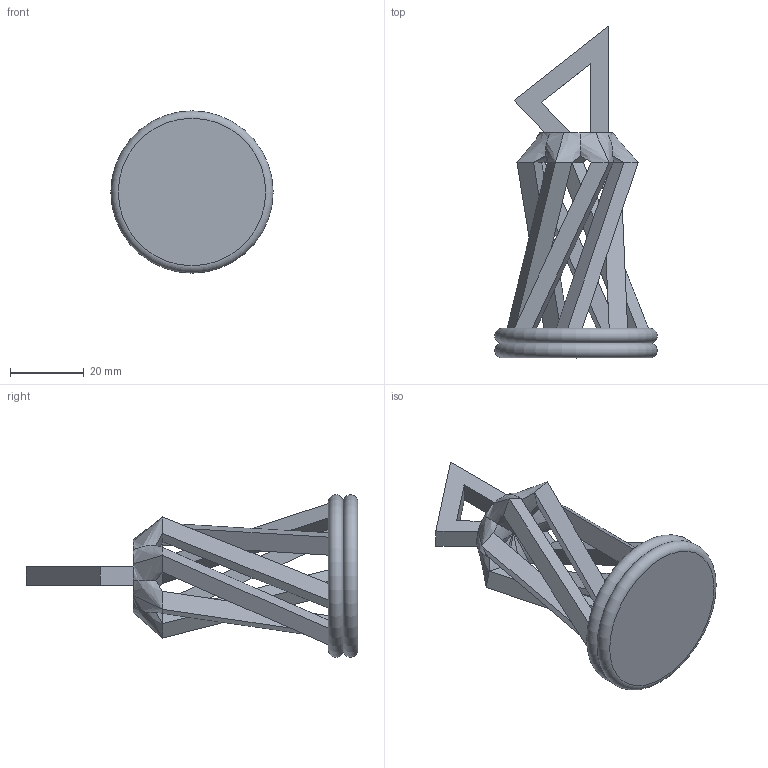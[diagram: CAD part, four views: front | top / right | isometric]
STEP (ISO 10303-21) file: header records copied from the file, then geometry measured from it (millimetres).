
FILE_DESCRIPTION(/* description */ (''),/* implementation_level */ '2;1');
FILE_NAME(/* name */ 'E:\Chess\Knight1.stp',/* time_stamp */ '2021-01-30T10:47:04-05:00',/* author */ ('Owner'),/* organization */ (''),/* preprocessor_version */ 'ST-DEVELOPER v18',/* originating_system */ 'Autodesk Inventor 2020',/* authorisation */ '');
FILE_SCHEMA (('AUTOMOTIVE_DESIGN { 1 0 10303 214 3 1 1 }'));
Length unit declared in the file: millimetre
Products named in the file (1): Knight1
Bounding box: 44 x 90 x 44 mm (x, y, z)
Volume: 24367.6 mm3; surface area: 13356 mm2
Topology: 1 solids, 1 shells, 69 faces, 179 edges, 113 vertices
Faces by surface type: plane 39, bspline 28, torus 2
Entity records: 2737 total; most frequent: CARTESIAN_POINT 1111, ORIENTED_EDGE 344, DIRECTION 266, EDGE_CURVE 172, LINE 136, VECTOR 136, VERTEX_POINT 100, EDGE_LOOP 78
